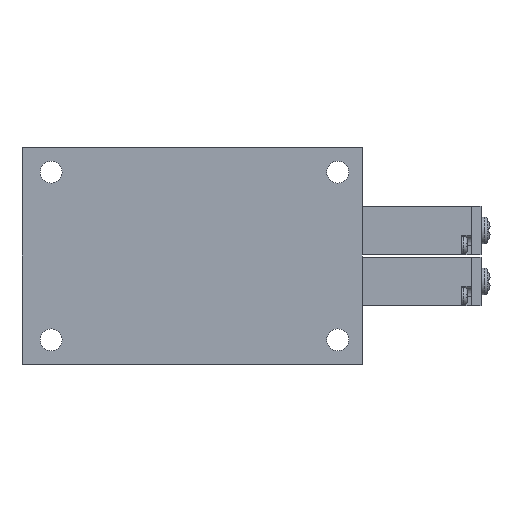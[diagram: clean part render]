
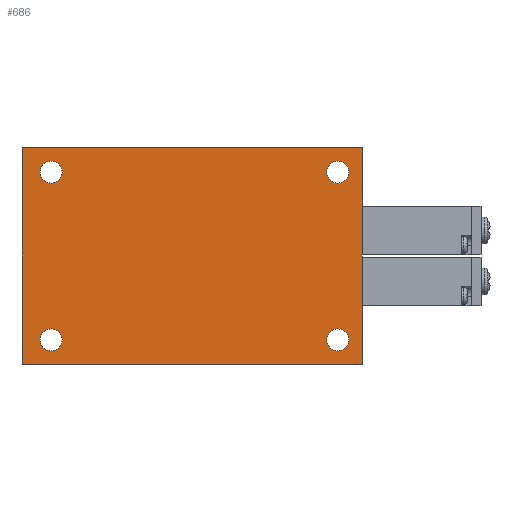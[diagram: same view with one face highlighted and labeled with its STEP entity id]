
A CAD part, front view. The second image highlights one B-rep face of the part: STEP entity #686.
In plain terms, the highlighted planar face has unit normal (0, -1, 0).
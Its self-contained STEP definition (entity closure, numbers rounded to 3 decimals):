
#686=ADVANCED_FACE('',(#1379,#1380,#1381,#1382,#1383),#1384,.F.);
#1379=FACE_OUTER_BOUND('',#2076,.T.);
#1380=FACE_BOUND('',#2077,.T.);
#1381=FACE_BOUND('',#2078,.T.);
#1382=FACE_BOUND('',#2079,.T.);
#1383=FACE_BOUND('',#2080,.T.);
#1384=PLANE('',#2081);
#2076=EDGE_LOOP('',(#4446,#4447,#4448,#4449));
#2077=EDGE_LOOP('',(#4450));
#2078=EDGE_LOOP('',(#4451));
#2079=EDGE_LOOP('',(#4452));
#2080=EDGE_LOOP('',(#4453));
#2081=AXIS2_PLACEMENT_3D('',#4454,#4455,#4456);
#4446=ORIENTED_EDGE('',*,*,#5175,.T.);
#4447=ORIENTED_EDGE('',*,*,#5173,.F.);
#4448=ORIENTED_EDGE('',*,*,#5167,.F.);
#4449=ORIENTED_EDGE('',*,*,#5194,.T.);
#4450=ORIENTED_EDGE('',*,*,#5186,.F.);
#4451=ORIENTED_EDGE('',*,*,#5184,.F.);
#4452=ORIENTED_EDGE('',*,*,#5182,.F.);
#4453=ORIENTED_EDGE('',*,*,#5190,.F.);
#4454=CARTESIAN_POINT('',(0.0,0.0,22.25));
#4455=DIRECTION('',(-0.0,1.0,0.0));
#4456=DIRECTION('',(1.0,0.0,0.0));
#5167=EDGE_CURVE('',#6391,#6393,#6394,.T.);
#5173=EDGE_CURVE('',#6393,#6400,#6404,.T.);
#5175=EDGE_CURVE('',#6407,#6400,#6408,.T.);
#5182=EDGE_CURVE('',#6420,#6420,#6421,.T.);
#5184=EDGE_CURVE('',#6424,#6424,#6425,.T.);
#5186=EDGE_CURVE('',#6428,#6428,#6429,.T.);
#5190=EDGE_CURVE('',#6435,#6435,#6436,.T.);
#5194=EDGE_CURVE('',#6391,#6407,#6443,.T.);
#6391=VERTEX_POINT('',#8476);
#6393=VERTEX_POINT('',#8479);
#6394=LINE('',#8480,#8481);
#6400=VERTEX_POINT('',#8488);
#6404=LINE('',#8494,#8495);
#6407=VERTEX_POINT('',#8499);
#6408=LINE('',#8500,#8501);
#6420=VERTEX_POINT('',#8514);
#6421=CIRCLE('',#8515,2.25);
#6424=VERTEX_POINT('',#8518);
#6425=CIRCLE('',#8519,2.25);
#6428=VERTEX_POINT('',#8522);
#6429=CIRCLE('',#8523,2.25);
#6435=VERTEX_POINT('',#8530);
#6436=CIRCLE('',#8531,2.25);
#6443=LINE('',#8538,#8539);
#8476=CARTESIAN_POINT('',(0.0,0.0,22.25));
#8479=CARTESIAN_POINT('',(70.0,0.0,22.25));
#8480=CARTESIAN_POINT('',(0.0,0.0,22.25));
#8481=VECTOR('',#9519,1.0);
#8488=CARTESIAN_POINT('',(70.0,0.0,-22.25));
#8494=CARTESIAN_POINT('',(70.0,0.0,22.25));
#8495=VECTOR('',#9529,1.0);
#8499=CARTESIAN_POINT('',(0.0,0.0,-22.25));
#8500=CARTESIAN_POINT('',(0.0,0.0,-22.25));
#8501=VECTOR('',#9531,1.0);
#8514=CARTESIAN_POINT('',(6.0,0.0,-15.0));
#8515=AXIS2_PLACEMENT_3D('',#9548,#9549,#9550);
#8518=CARTESIAN_POINT('',(65.0,0.0,-15.0));
#8519=AXIS2_PLACEMENT_3D('',#9554,#9555,#9556);
#8522=CARTESIAN_POINT('',(6.0,0.0,19.5));
#8523=AXIS2_PLACEMENT_3D('',#9560,#9561,#9562);
#8530=CARTESIAN_POINT('',(65.0,0.0,19.5));
#8531=AXIS2_PLACEMENT_3D('',#9570,#9571,#9572);
#8538=CARTESIAN_POINT('',(0.0,0.0,22.25));
#8539=VECTOR('',#9582,1.0);
#9519=DIRECTION('',(1.0,0.0,0.0));
#9529=DIRECTION('',(0.0,0.0,-1.0));
#9531=DIRECTION('',(1.0,0.0,0.0));
#9548=CARTESIAN_POINT('',(6.0,0.0,-17.25));
#9549=DIRECTION('',(0.0,-1.0,0.0));
#9550=DIRECTION('',(0.0,0.0,1.0));
#9554=CARTESIAN_POINT('',(65.0,0.0,-17.25));
#9555=DIRECTION('',(0.0,-1.0,0.0));
#9556=DIRECTION('',(0.0,0.0,1.0));
#9560=CARTESIAN_POINT('',(6.0,0.0,17.25));
#9561=DIRECTION('',(0.0,-1.0,0.0));
#9562=DIRECTION('',(0.0,0.0,1.0));
#9570=CARTESIAN_POINT('',(65.0,0.0,17.25));
#9571=DIRECTION('',(0.0,-1.0,0.0));
#9572=DIRECTION('',(0.0,0.0,1.0));
#9582=DIRECTION('',(0.0,0.0,-1.0));
